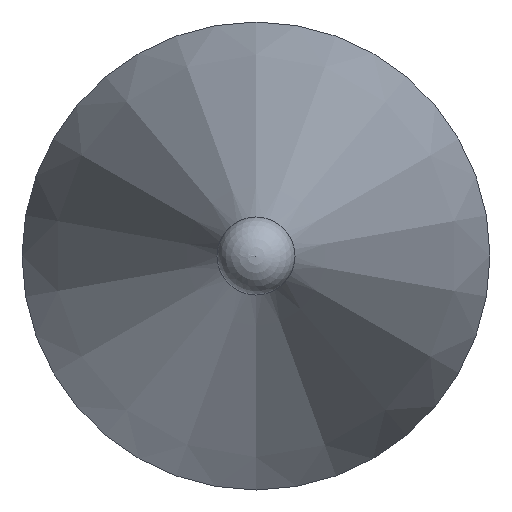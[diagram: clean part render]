
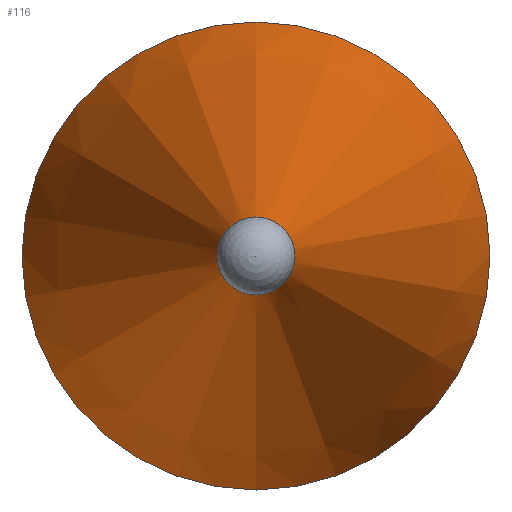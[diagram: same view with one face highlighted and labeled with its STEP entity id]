
A CAD part, left-side view. The second image highlights one B-rep face of the part: STEP entity #116.
In plain terms, the highlighted conical face has half-angle 15 degrees and reference radius 0.475 mm.
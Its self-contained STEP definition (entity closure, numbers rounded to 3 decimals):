
#100=CONICAL_SURFACE('',#182,0.475,15.);
#105=FACE_BOUND('',#130,.T.);
#106=FACE_BOUND('',#131,.T.);
#116=ADVANCED_FACE('',(#105,#106),#100,.T.);
#130=EDGE_LOOP('',(#144));
#131=EDGE_LOOP('',(#145));
#144=ORIENTED_EDGE('',*,*,#162,.T.);
#145=ORIENTED_EDGE('',*,*,#163,.F.);
#155=VERTEX_POINT('',#230);
#156=VERTEX_POINT('',#233);
#162=EDGE_CURVE('',#155,#155,#169,.T.);
#163=EDGE_CURVE('',#156,#156,#170,.T.);
#169=CIRCLE('',#179,3.);
#170=CIRCLE('',#181,0.475);
#179=AXIS2_PLACEMENT_3D('',#229,#200,#201);
#181=AXIS2_PLACEMENT_3D('',#232,#204,#205);
#182=AXIS2_PLACEMENT_3D('',#234,#206,#207);
#200=DIRECTION('',(-1.,0.,0.));
#201=DIRECTION('',(0.,0.,1.));
#204=DIRECTION('',(-1.,0.,0.));
#205=DIRECTION('',(0.,0.,1.));
#206=DIRECTION('',(1.,0.,0.));
#207=DIRECTION('',(0.,0.,-1.));
#229=CARTESIAN_POINT('',(7906.335,6103.288,0.));
#230=CARTESIAN_POINT('',(7906.335,6103.288,3.));
#232=CARTESIAN_POINT('',(7896.912,6103.288,0.));
#233=CARTESIAN_POINT('',(7896.912,6103.288,0.475));
#234=CARTESIAN_POINT('',(7896.912,6103.288,0.));
